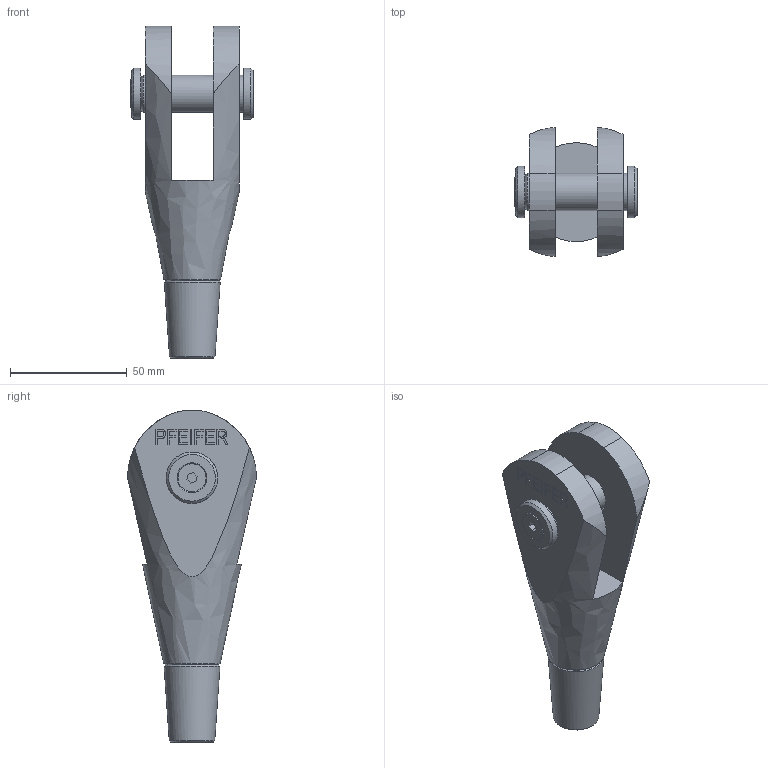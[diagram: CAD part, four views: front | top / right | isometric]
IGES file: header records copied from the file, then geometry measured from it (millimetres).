
Global section: file name: 520-016-GAK; native system: Autodesk Inventor 2016; preprocessor: unknown; author: Administrator; date: 20200625.074551; units: centimetre
Bounding box: 52.21 x 55.15 x 142 mm (x, y, z)
Volume: 110050.6 mm3; surface area: 28427.9 mm2
Topology: 2 solids, 3 shells, 186 faces, 488 edges, 326 vertices
Faces by surface type: bspline 186
